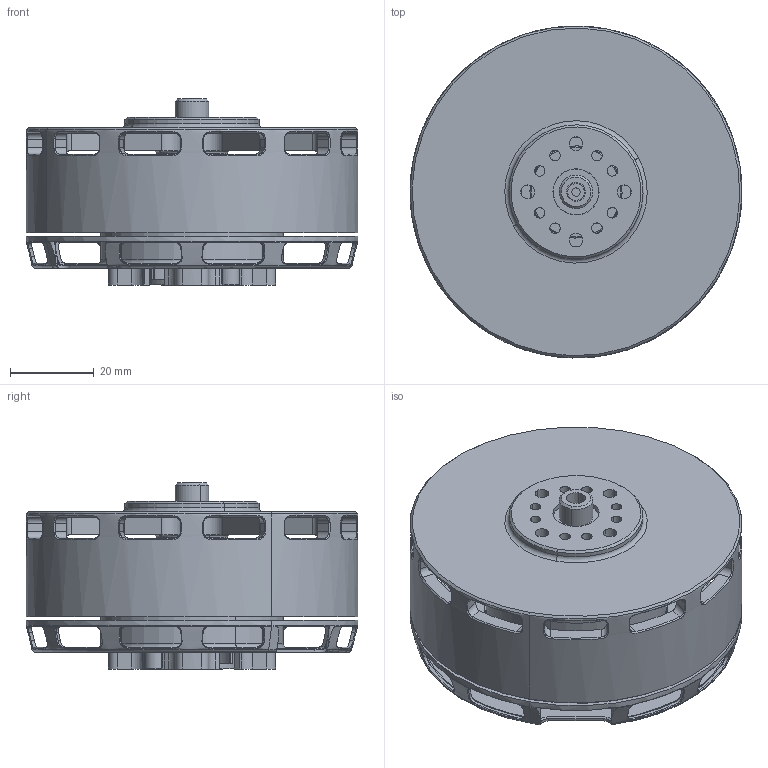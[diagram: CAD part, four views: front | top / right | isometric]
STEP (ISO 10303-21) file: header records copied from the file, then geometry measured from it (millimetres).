
FILE_DESCRIPTION (( 'STEP AP214' ), '1' );
FILE_NAME ('VL7015-ZT.STEP', '2024-09-11T01:27:50', ( '' ), ( '' ), 'SwSTEP 2.0', 'SolidWorks 2020', '' );
FILE_SCHEMA (( 'AUTOMOTIVE_DESIGN' ));
Length unit declared in the file: millimetre
Products named in the file (1): VL7015-ZT
Bounding box: 79.18 x 79.18 x 44.4 mm (x, y, z)
Volume: 41407.6 mm3; surface area: 50876.6 mm2
Topology: 1 solids, 7 shells, 1345 faces, 4198 edges, 2691 vertices
Faces by surface type: plane 441, cylinder 430, bspline 170, torus 122, sphere 96, cone 86
Entity records: 75907 total; most frequent: CARTESIAN_POINT 39604, ORIENTED_EDGE 8108, DIRECTION 5999, EDGE_CURVE 4054, VERTEX_POINT 2643, AXIS2_PLACEMENT_3D 2428, B_SPLINE_CURVE_WITH_KNOTS 1659, EDGE_LOOP 1423
